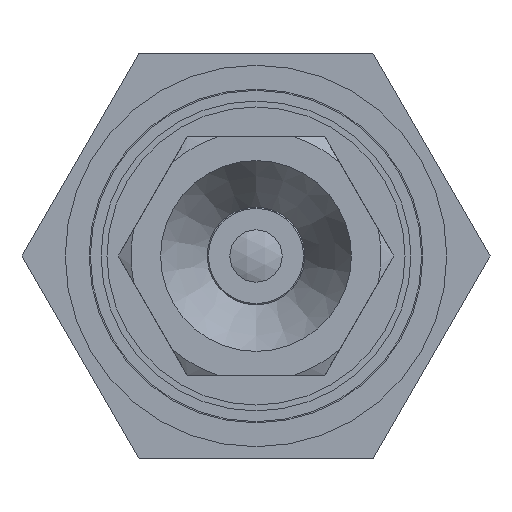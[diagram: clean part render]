
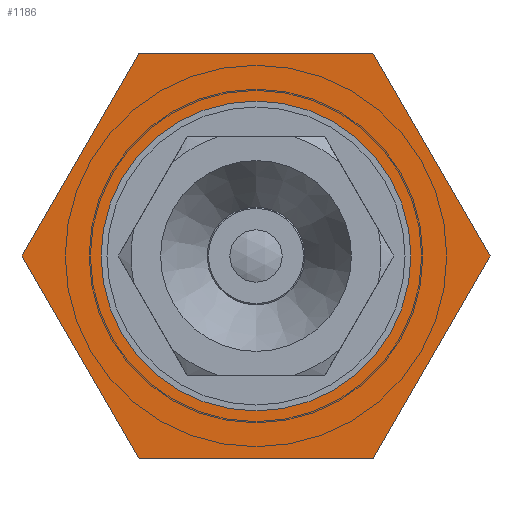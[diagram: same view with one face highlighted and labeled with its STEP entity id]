
A CAD part, front view. The second image highlights one B-rep face of the part: STEP entity #1186.
In plain terms, the highlighted planar face has unit normal (0, -1, 0) as drawn and (-1, 0, 0) by its records, which use the part's own axes.
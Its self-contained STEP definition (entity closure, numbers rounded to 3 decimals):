
#50=LINE('',#2599,#86);
#53=LINE('',#2605,#89);
#56=LINE('',#2611,#92);
#59=LINE('',#2617,#95);
#62=LINE('',#2623,#98);
#65=LINE('',#2628,#101);
#86=VECTOR('',#2162,1000.);
#89=VECTOR('',#2167,1000.);
#92=VECTOR('',#2172,1000.);
#95=VECTOR('',#2177,1000.);
#98=VECTOR('',#2182,1000.);
#101=VECTOR('',#2187,1000.);
#332=ORIENTED_EDGE('',*,*,#530,.F.);
#333=ORIENTED_EDGE('',*,*,#529,.F.);
#334=ORIENTED_EDGE('',*,*,#526,.F.);
#335=ORIENTED_EDGE('',*,*,#523,.F.);
#336=ORIENTED_EDGE('',*,*,#520,.F.);
#337=ORIENTED_EDGE('',*,*,#517,.F.);
#338=ORIENTED_EDGE('',*,*,#514,.F.);
#514=EDGE_CURVE('',#630,#631,#50,.T.);
#517=EDGE_CURVE('',#631,#633,#53,.T.);
#520=EDGE_CURVE('',#633,#635,#56,.T.);
#523=EDGE_CURVE('',#635,#637,#59,.T.);
#526=EDGE_CURVE('',#637,#639,#62,.T.);
#529=EDGE_CURVE('',#639,#630,#65,.T.);
#530=EDGE_CURVE('',#640,#640,#719,.T.);
#630=VERTEX_POINT('',#2598);
#631=VERTEX_POINT('',#2600);
#633=VERTEX_POINT('',#2606);
#635=VERTEX_POINT('',#2612);
#637=VERTEX_POINT('',#2618);
#639=VERTEX_POINT('',#2624);
#640=VERTEX_POINT('',#2631);
#719=CIRCLE('',#1908,6.5);
#826=EDGE_LOOP('',(#332));
#827=EDGE_LOOP('',(#333,#334,#335,#336,#337,#338));
#995=FACE_BOUND('',#826,.T.);
#996=FACE_BOUND('',#827,.T.);
#1130=PLANE('',#1907);
#1186=ADVANCED_FACE('',(#995,#996),#1130,.F.);
#1907=AXIS2_PLACEMENT_3D('',#2629,#2188,#2189);
#1908=AXIS2_PLACEMENT_3D('',#2630,#2190,#2191);
#2162=DIRECTION('',(0.,-0.5,0.866));
#2167=DIRECTION('',(0.,-1.,0.));
#2172=DIRECTION('',(0.,-0.5,-0.866));
#2177=DIRECTION('',(0.,0.5,-0.866));
#2182=DIRECTION('',(0.,1.,0.));
#2187=DIRECTION('',(0.,0.5,0.866));
#2188=DIRECTION('',(1.,0.,0.));
#2189=DIRECTION('',(0.,0.,-1.));
#2190=DIRECTION('',(-1.,0.,0.));
#2191=DIRECTION('',(0.,0.,1.));
#2598=CARTESIAN_POINT('',(8.,9.815,0.));
#2599=CARTESIAN_POINT('',(8.,9.815,0.));
#2600=CARTESIAN_POINT('',(8.,4.907,8.5));
#2605=CARTESIAN_POINT('',(8.,4.907,8.5));
#2606=CARTESIAN_POINT('',(8.,-4.907,8.5));
#2611=CARTESIAN_POINT('',(8.,-4.907,8.5));
#2612=CARTESIAN_POINT('',(8.,-9.815,0.));
#2617=CARTESIAN_POINT('',(8.,-9.815,0.));
#2618=CARTESIAN_POINT('',(8.,-4.907,-8.5));
#2623=CARTESIAN_POINT('',(8.,-4.907,-8.5));
#2624=CARTESIAN_POINT('',(8.,4.907,-8.5));
#2628=CARTESIAN_POINT('',(8.,4.907,-8.5));
#2629=CARTESIAN_POINT('',(8.,0.,12.5));
#2630=CARTESIAN_POINT('',(8.,0.,0.));
#2631=CARTESIAN_POINT('',(8.,0.,6.5));
